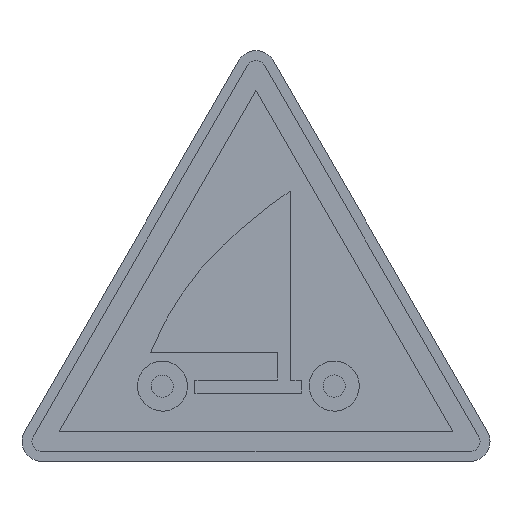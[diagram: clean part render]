
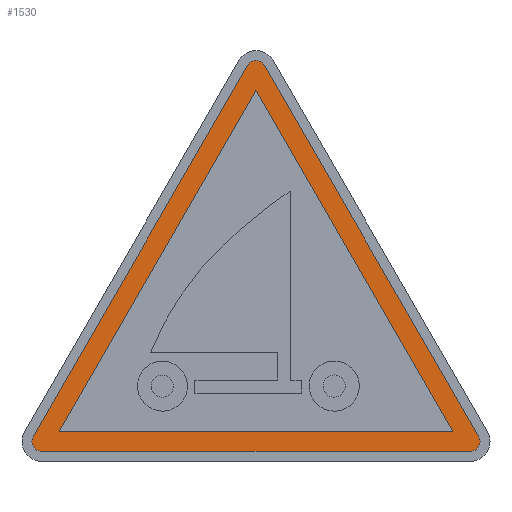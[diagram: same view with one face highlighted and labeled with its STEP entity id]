
A CAD part, top view. The second image highlights one B-rep face of the part: STEP entity #1530.
In plain terms, the highlighted planar face has unit normal (0, 0, 1).
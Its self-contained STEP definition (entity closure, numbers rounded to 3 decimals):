
#3 = FACE_BOUND ( 'NONE', #1264, .T. ) ;
#50 = CARTESIAN_POINT ( 'NONE',  ( -21.536, 2., 0.22 ) ) ;
#78 = DIRECTION ( 'NONE',  ( 0., 0., 1. ) ) ;
#79 = CARTESIAN_POINT ( 'NONE',  ( -22.402, 2.5, 0.22 ) ) ;
#155 = CIRCLE ( 'NONE', #1242, 1. ) ;
#226 = FACE_OUTER_BOUND ( 'NONE', #1323, .T. ) ;
#234 = AXIS2_PLACEMENT_3D ( 'NONE', #2014, #78, #1586 ) ;
#246 = EDGE_CURVE ( 'NONE', #1011, #751, #2175, .T. ) ;
#278 = DIRECTION ( 'NONE',  ( 0., 0., 1. ) ) ;
#290 = VECTOR ( 'NONE', #1168, 1000. ) ;
#308 = LINE ( 'NONE', #2667, #290 ) ;
#321 = DIRECTION ( 'NONE',  ( 1., 0., 0. ) ) ;
#327 = EDGE_CURVE ( 'NONE', #2035, #2363, #155, .T. ) ;
#474 = CARTESIAN_POINT ( 'NONE',  ( 0., 37.301, 0.22 ) ) ;
#478 = CARTESIAN_POINT ( 'NONE',  ( 19.804, 3., 0.22 ) ) ;
#486 = EDGE_CURVE ( 'NONE', #691, #1362, #2681, .T. ) ;
#539 = EDGE_CURVE ( 'NONE', #914, #701, #2536, .T. ) ;
#548 = CARTESIAN_POINT ( 'NONE',  ( 0., 39.301, 0.22 ) ) ;
#557 = ORIENTED_EDGE ( 'NONE', *, *, #327, .T. ) ;
#562 = DIRECTION ( 'NONE',  ( 0., 0., 1. ) ) ;
#565 = ORIENTED_EDGE ( 'NONE', *, *, #2422, .T. ) ;
#584 = VECTOR ( 'NONE', #1330, 1000. ) ;
#614 = CARTESIAN_POINT ( 'NONE',  ( -21.536, 1., 0.22 ) ) ;
#646 = EDGE_CURVE ( 'NONE', #701, #1433, #2424, .T. ) ;
#691 = VERTEX_POINT ( 'NONE', #2745 ) ;
#701 = VERTEX_POINT ( 'NONE', #1059 ) ;
#704 = VECTOR ( 'NONE', #2652, 1000. ) ;
#745 = ORIENTED_EDGE ( 'NONE', *, *, #1992, .F. ) ;
#751 = VERTEX_POINT ( 'NONE', #478 ) ;
#850 = ORIENTED_EDGE ( 'NONE', *, *, #246, .F. ) ;
#861 = VECTOR ( 'NONE', #2736, 1000. ) ;
#867 = DIRECTION ( 'NONE',  ( 1., 0., 0. ) ) ;
#914 = VERTEX_POINT ( 'NONE', #79 ) ;
#918 = EDGE_CURVE ( 'NONE', #1362, #914, #308, .T. ) ;
#967 = AXIS2_PLACEMENT_3D ( 'NONE', #2299, #2096, #867 ) ;
#973 = CARTESIAN_POINT ( 'NONE',  ( -21.536, 1., 0.22 ) ) ;
#1010 = CARTESIAN_POINT ( 'NONE',  ( -19.804, 3., 0.22 ) ) ;
#1011 = VERTEX_POINT ( 'NONE', #1010 ) ;
#1040 = CARTESIAN_POINT ( 'NONE',  ( 22.402, 2.5, 0.22 ) ) ;
#1059 = CARTESIAN_POINT ( 'NONE',  ( -22.536, 2., 0.22 ) ) ;
#1061 = ORIENTED_EDGE ( 'NONE', *, *, #486, .T. ) ;
#1132 = ORIENTED_EDGE ( 'NONE', *, *, #918, .T. ) ;
#1142 = LINE ( 'NONE', #2457, #704 ) ;
#1151 = DIRECTION ( 'NONE',  ( 1., 0., 0. ) ) ;
#1161 = CARTESIAN_POINT ( 'NONE',  ( 21.536, 2., 0.22 ) ) ;
#1168 = DIRECTION ( 'NONE',  ( -0.5, -0.866, 0. ) ) ;
#1200 = DIRECTION ( 'NONE',  ( 1., 0., 0. ) ) ;
#1203 = ORIENTED_EDGE ( 'NONE', *, *, #1473, .T. ) ;
#1242 = AXIS2_PLACEMENT_3D ( 'NONE', #1161, #1561, #1151 ) ;
#1264 = EDGE_LOOP ( 'NONE', ( #850, #2600, #745 ) ) ;
#1323 = EDGE_LOOP ( 'NONE', ( #1061, #1132, #2510, #2576, #565, #557, #1203 ) ) ;
#1328 = DIRECTION ( 'NONE',  ( 1., 0., 0. ) ) ;
#1330 = DIRECTION ( 'NONE',  ( -0.5, -0.866, 0. ) ) ;
#1349 = AXIS2_PLACEMENT_3D ( 'NONE', #50, #278, #1200 ) ;
#1362 = VERTEX_POINT ( 'NONE', #2034 ) ;
#1426 = VERTEX_POINT ( 'NONE', #2000 ) ;
#1433 = VERTEX_POINT ( 'NONE', #973 ) ;
#1464 = PLANE ( 'NONE',  #234 ) ;
#1466 = DIRECTION ( 'NONE',  ( 1., 0., 0. ) ) ;
#1473 = EDGE_CURVE ( 'NONE', #2363, #691, #1863, .T. ) ;
#1530 = ADVANCED_FACE ( 'NONE', ( #226, #3 ), #1464, .T. ) ;
#1561 = DIRECTION ( 'NONE',  ( 0., 0., 1. ) ) ;
#1586 = DIRECTION ( 'NONE',  ( 1., 0., 0. ) ) ;
#1676 = LINE ( 'NONE', #614, #1922 ) ;
#1863 = LINE ( 'NONE', #2359, #861 ) ;
#1921 = AXIS2_PLACEMENT_3D ( 'NONE', #548, #562, #321 ) ;
#1922 = VECTOR ( 'NONE', #1466, 1000. ) ;
#1934 = VECTOR ( 'NONE', #1328, 1000. ) ;
#1992 = EDGE_CURVE ( 'NONE', #751, #1426, #1142, .T. ) ;
#2000 = CARTESIAN_POINT ( 'NONE',  ( 0., 37.301, 0.22 ) ) ;
#2014 = CARTESIAN_POINT ( 'NONE',  ( 0., 39.301, 0.22 ) ) ;
#2027 = CARTESIAN_POINT ( 'NONE',  ( 21.536, 1., 0.22 ) ) ;
#2034 = CARTESIAN_POINT ( 'NONE',  ( -0.866, 39.801, 0.22 ) ) ;
#2035 = VERTEX_POINT ( 'NONE', #2027 ) ;
#2096 = DIRECTION ( 'NONE',  ( 0., 0., 1. ) ) ;
#2175 = LINE ( 'NONE', #2568, #1934 ) ;
#2299 = CARTESIAN_POINT ( 'NONE',  ( -21.536, 2., 0.22 ) ) ;
#2359 = CARTESIAN_POINT ( 'NONE',  ( 22.402, 2.5, 0.22 ) ) ;
#2363 = VERTEX_POINT ( 'NONE', #1040 ) ;
#2422 = EDGE_CURVE ( 'NONE', #1433, #2035, #1676, .T. ) ;
#2424 = CIRCLE ( 'NONE', #967, 1. ) ;
#2457 = CARTESIAN_POINT ( 'NONE',  ( 19.804, 3., 0.22 ) ) ;
#2496 = EDGE_CURVE ( 'NONE', #1426, #1011, #2571, .T. ) ;
#2510 = ORIENTED_EDGE ( 'NONE', *, *, #539, .T. ) ;
#2536 = CIRCLE ( 'NONE', #1349, 1. ) ;
#2568 = CARTESIAN_POINT ( 'NONE',  ( -19.804, 3., 0.22 ) ) ;
#2571 = LINE ( 'NONE', #474, #584 ) ;
#2576 = ORIENTED_EDGE ( 'NONE', *, *, #646, .T. ) ;
#2600 = ORIENTED_EDGE ( 'NONE', *, *, #2496, .F. ) ;
#2652 = DIRECTION ( 'NONE',  ( -0.5, 0.866, 0. ) ) ;
#2667 = CARTESIAN_POINT ( 'NONE',  ( -0.866, 39.801, 0.22 ) ) ;
#2681 = CIRCLE ( 'NONE', #1921, 1. ) ;
#2736 = DIRECTION ( 'NONE',  ( -0.5, 0.866, 0. ) ) ;
#2745 = CARTESIAN_POINT ( 'NONE',  ( 0.866, 39.801, 0.22 ) ) ;
